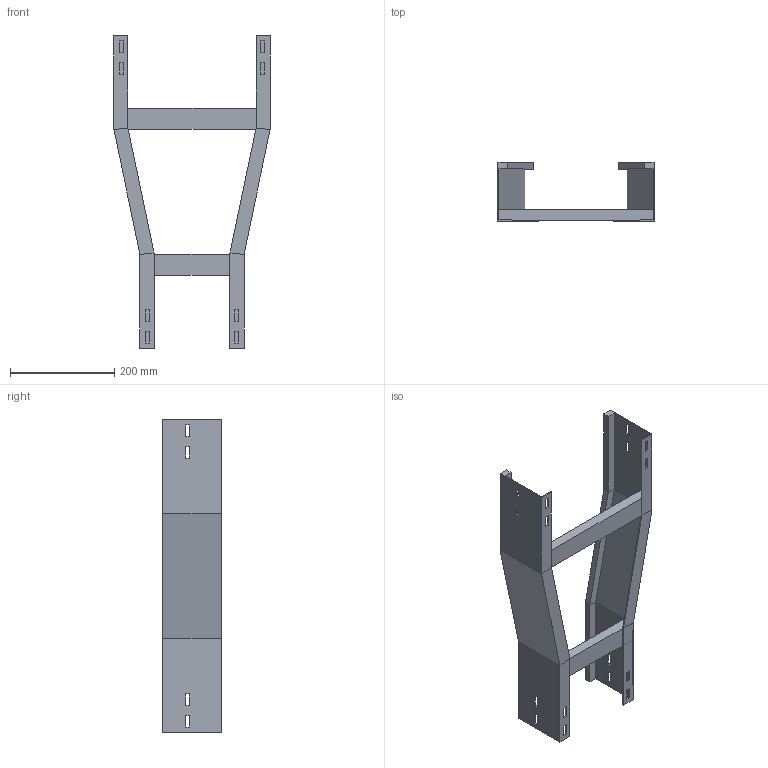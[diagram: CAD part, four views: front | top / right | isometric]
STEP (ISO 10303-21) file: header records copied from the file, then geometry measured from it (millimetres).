
FILE_DESCRIPTION (( 'STEP AP214' ), '1' );
FILE_NAME ('B2X20B2J300XX.step', '2025-09-02T17:14:02', ( '' ), ( '' ), 'SwSTEP 2.0', 'SolidWorks 2023', '' );
FILE_SCHEMA (( 'AUTOMOTIVE_DESIGN' ));
Length unit declared in the file: millimetre
Products named in the file (4): TRAVERSINO_200; SPONDA RID. CENTRALE 300-200_H112.5; B2X20B2J300XX; TRAVERSINO_300
Assembly tree (3 placements, depth 2):
  B2X20B2J300XX
    SPONDA RID. CENTRALE 300-200_H112.5
    TRAVERSINO_200
    TRAVERSINO_300
Bounding box: 300 x 112.5 x 600 mm (x, y, z)
Volume: 958804.9 mm3; surface area: 437973.2 mm2
Topology: 4 solids, 4 shells, 128 faces, 328 edges, 208 vertices
Faces by surface type: plane 128
Entity records: 3950 total; most frequent: CARTESIAN_POINT 670, ORIENTED_EDGE 656, DIRECTION 596, LINE 328, VECTOR 328, EDGE_CURVE 328, VERTEX_POINT 208, EDGE_LOOP 160
